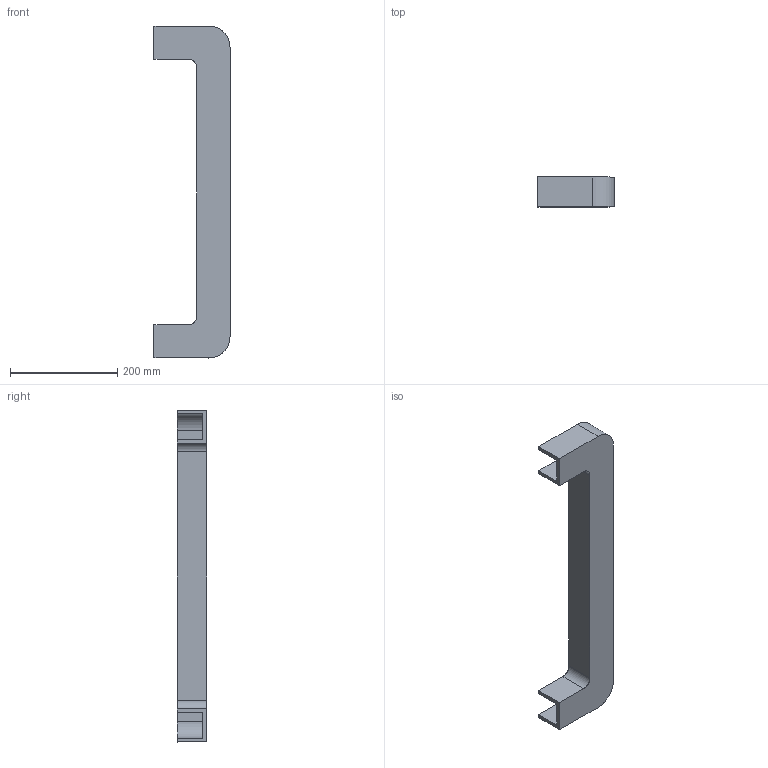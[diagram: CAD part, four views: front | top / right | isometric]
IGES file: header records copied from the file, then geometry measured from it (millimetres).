
Start section: SolidWorks IGES file using analytic representation for surfaces
Global section: file name: C:\Users\Stagiaire\Desktop\Rendu 3D\AGRAFE\3078_DOUBLE_AGRAFFE\3078_DOUBLE_AGRAFFE.IGS; native system: SolidWorks 2014; preprocessor: SolidWorks 2014; author: Stagiaire; date: 141007.161739; units: millimetre
Bounding box: 142 x 55 x 620 mm (x, y, z)
Surface area: 253507 mm2 (no closed solid volume)
Topology: 0 solids, 0 shells, 26 faces, 336 edges, 336 vertices
Faces by surface type: bspline 18, revolution 8
